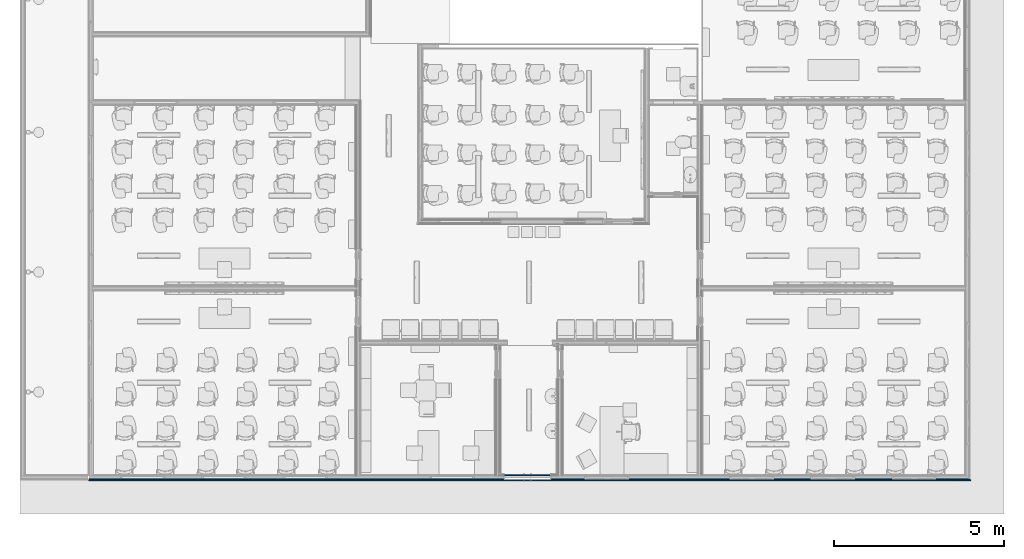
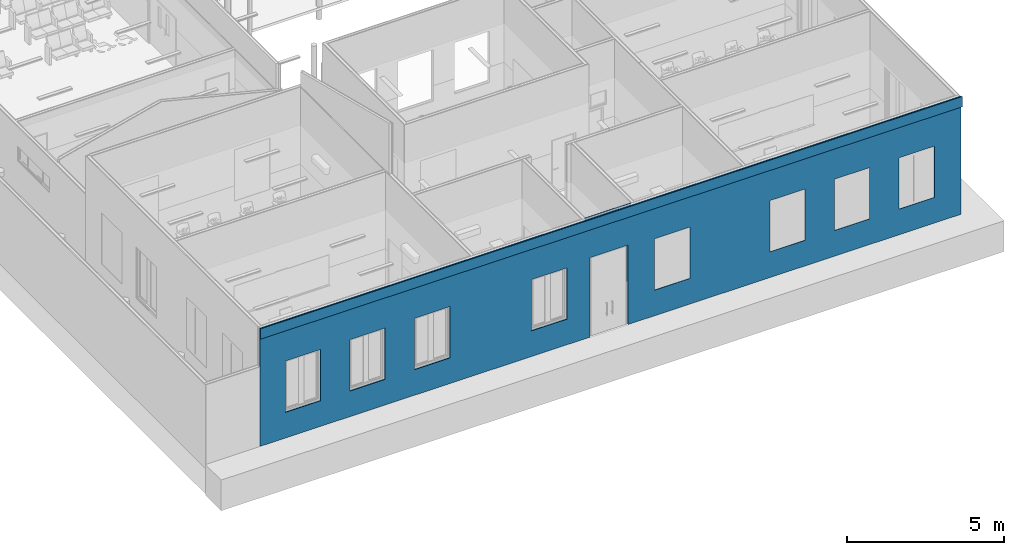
# One storey, part 7 of 155: 3 walls, 18 openings.
"""IFC2X3 building model written with IfcOpenShell, lengths in metres."""

from ifc_helpers import new_model, entity, si_unit, converted_unit, derived_unit, direction, frame, frame_2d, origin, place, context, subcontext, project, spatial, rectangle, extrude, material, layer, layer_set, layer_usage, type_object, element, save


model = new_model("IFC2X3")

# Units and contexts
model_context = context("Model", 3, precision=1e-05, world=origin(), true_north=direction((6.12303176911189e-17, 1.0)))
body_context = subcontext(model_context, "Body", "Model", "MODEL_VIEW")
ifc_project = project(units=[si_unit("LENGTHUNIT", "METRE"), si_unit("AREAUNIT", "SQUARE_METRE"), si_unit("VOLUMEUNIT", "CUBIC_METRE"), converted_unit("PLANEANGLEUNIT", "DEGREE", entity("IfcRatioMeasure", 0.0174532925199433), si_unit("PLANEANGLEUNIT", "RADIAN"), dimensions=[0, 0, 0, 0, 0, 0, 0]), si_unit("MASSUNIT", "GRAM", prefix="KILO"), derived_unit("MASSDENSITYUNIT", [(si_unit("MASSUNIT", "GRAM", prefix="KILO"), 1), (si_unit("LENGTHUNIT", "METRE"), -3)]), si_unit("TIMEUNIT", "SECOND"), si_unit("FREQUENCYUNIT", "HERTZ"), si_unit("THERMODYNAMICTEMPERATUREUNIT", "DEGREE_CELSIUS"), derived_unit("THERMALTRANSMITTANCEUNIT", [(si_unit("MASSUNIT", "GRAM", prefix="KILO"), 1), (si_unit("THERMODYNAMICTEMPERATUREUNIT", "KELVIN"), -1), (si_unit("TIMEUNIT", "SECOND"), -3)]), derived_unit("VOLUMETRICFLOWRATEUNIT", [(si_unit("LENGTHUNIT", "METRE"), 3), (si_unit("TIMEUNIT", "SECOND"), -1)]), si_unit("ELECTRICCURRENTUNIT", "AMPERE"), si_unit("ELECTRICVOLTAGEUNIT", "VOLT"), si_unit("POWERUNIT", "WATT"), si_unit("FORCEUNIT", "NEWTON", prefix="KILO"), si_unit("ILLUMINANCEUNIT", "LUX"), si_unit("LUMINOUSFLUXUNIT", "LUMEN"), si_unit("LUMINOUSINTENSITYUNIT", "CANDELA"), derived_unit("USERDEFINED", [(si_unit("MASSUNIT", "GRAM", prefix="KILO"), -1), (si_unit("LENGTHUNIT", "METRE"), -2), (si_unit("TIMEUNIT", "SECOND"), 3), (si_unit("LUMINOUSFLUXUNIT", "LUMEN"), 1)]), derived_unit("LINEARVELOCITYUNIT", [(si_unit("LENGTHUNIT", "METRE"), 1), (si_unit("TIMEUNIT", "SECOND"), -1)]), si_unit("PRESSUREUNIT", "PASCAL"), derived_unit("USERDEFINED", [(si_unit("LENGTHUNIT", "METRE"), -2), (si_unit("MASSUNIT", "GRAM", prefix="KILO"), 1), (si_unit("TIMEUNIT", "SECOND"), -2)])], contexts=[model_context])

# Site, building, storey
site_placement = place(None, frame((26.9889013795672, -17.5624287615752, 0.0)))
site = spatial("IfcSite", under=ifc_project, at=site_placement, Name="Default", CompositionType="ELEMENT")
building_placement = place(site_placement, origin())
building = spatial("IfcBuilding", under=site, at=building_placement, Name="C. C. L. Monsenhor Antônio Sampaio", CompositionType="ELEMENT")
storey_placement = place(building_placement, frame((0.0, 0.0, 1.19999999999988)))
storey = spatial("IfcBuildingStorey", under=building, at=storey_placement, Name="Nível 1.2", CompositionType="ELEMENT", Elevation=1.19999999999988)

# Wall, openings
ifc_material_1 = material(Name="Acabamento Branco")
ifc_layer_1 = layer(ifc_material_1, 0.0035)
ifc_material_2 = material(Name="Massa corrida")
ifc_layer_2 = layer(ifc_material_2, 0.02)
ifc_material_3 = material(Name="4")
ifc_layer_3 = layer(ifc_material_3, 0.0015)
ifc_material_4 = material(Name="3")
ifc_layer_4 = layer(ifc_material_4, 0.005)
ifc_layer_set_1 = layer_set([ifc_layer_1, ifc_layer_2, ifc_layer_3, ifc_layer_4], Name="Parede básica:EPintura Branca")
ifc_layer_usage_1 = layer_usage(ifc_layer_set_1, "AXIS2", "POSITIVE", -0.015)
wall_type_1 = type_object("IfcWallType", Name="Parede básica:EPintura Branca", PredefinedType="STANDARD", material=ifc_layer_set_1)
wall_1_placement = place(storey_placement, frame((-0.370552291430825, -39.3180663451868, 1.6), z_axis=(0.0, 0.0, 1.0), x_axis=(-1.0, 0.0, 0.0)))
wall_1 = element("IfcWallStandardCase", 1, at=wall_1_placement, inside=storey, type_object=wall_type_1, material=ifc_layer_usage_1, Name="Parede básica:EPintura Branca", ObjectType="Parede básica:EPintura Branca", context=body_context, shape_type="SweptSolid", body=[
    extrude(rectangle(XDim=1.70000000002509, YDim=0.0299999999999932, at=frame_2d((0.850000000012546, 0.0), x_axis=(-1.0, 0.0))), origin(), (0.0, 0.0, 1.0), 3.00000000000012),
])
opening_1_placement = place(wall_1_placement, origin())
element("IfcOpeningElement", 2, at=opening_1_placement, cuts=wall_1, Name="Parede básica:EPintura Branca", ObjectType="Opening", context=body_context, shape_type="SweptSolid", body=[
    extrude(rectangle(XDim=3.09999999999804, YDim=1.4, at=frame_2d((0.0, -3.33066907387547e-16), x_axis=(0.0, 1.0))), frame((0.880000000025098, -1.50900000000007, -0.0500000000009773), z_axis=(0.0, 1.0, 0.0), x_axis=(-1.0, 0.0, 0.0)), (0.0, 0.0, 1.0), 3.048),
])
opening_2_placement = place(wall_1_placement, origin())
element("IfcOpeningElement", 3, at=opening_2_placement, cuts=wall_1, Name="Parede básica:EPintura Branca", ObjectType="Opening", context=body_context, shape_type="SweptSolid", body=[
    extrude(rectangle(XDim=2.0, YDim=1.30000000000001, at=frame_2d((0.0, -3.88578058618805e-16), x_axis=(0.0, 1.0))), frame((12.1699999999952, -1.41900000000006, 0.400000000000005), z_axis=(0.0, 1.0, 0.0), x_axis=(-1.0, 0.0, 0.0)), (0.0, 0.0, 1.0), 3.04799999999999),
])
opening_3_placement = place(wall_1_placement, origin())
element("IfcOpeningElement", 4, at=opening_3_placement, cuts=wall_1, Name="Parede básica:EPintura Branca", ObjectType="Opening", context=body_context, shape_type="SweptSolid", body=[
    extrude(rectangle(XDim=2.0, YDim=1.30000000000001, at=frame_2d((-4.9960036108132e-16, -3.88578058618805e-16), x_axis=(0.0, 1.0))), frame((9.78999999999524, -1.41900000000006, 0.400000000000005), z_axis=(0.0, 1.0, 0.0), x_axis=(-1.0, 0.0, 0.0)), (0.0, 0.0, 1.0), 3.048),
])
opening_4_placement = place(wall_1_placement, origin())
element("IfcOpeningElement", 5, at=opening_4_placement, cuts=wall_1, Name="Parede básica:EPintura Branca", ObjectType="Opening", context=body_context, shape_type="SweptSolid", body=[
    extrude(rectangle(XDim=2.0, YDim=1.30000000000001, at=frame_2d((0.0, -3.88578058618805e-16), x_axis=(0.0, 1.0))), frame((7.39999999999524, -1.41900000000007, 0.400000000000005), z_axis=(0.0, 1.0, 0.0), x_axis=(-1.0, 0.0, 0.0)), (0.0, 0.0, 1.0), 3.048),
])
opening_5_placement = place(wall_1_placement, origin())
element("IfcOpeningElement", 6, at=opening_5_placement, cuts=wall_1, Name="Parede básica:EPintura Branca", ObjectType="Opening", context=body_context, shape_type="SweptSolid", body=[
    extrude(rectangle(XDim=2.0, YDim=1.30000000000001, at=frame_2d((1.66533453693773e-16, 0.0), x_axis=(1.0, 0.0))), frame((3.09000000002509, -1.41900000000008, 0.400000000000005), z_axis=(0.0, 1.0, 0.0), x_axis=(0.0, 0.0, 1.0)), (0.0, 0.0, 1.0), 3.048),
])
opening_6_placement = place(wall_1_placement, origin())
element("IfcOpeningElement", 7, at=opening_6_placement, cuts=wall_1, Name="Parede básica:EPintura Branca", ObjectType="Opening", context=body_context, shape_type="SweptSolid", body=[
    extrude(rectangle(XDim=2.0, YDim=1.30000000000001, at=frame_2d((1.66533453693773e-16, -1.11022302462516e-16), x_axis=(1.0, 0.0))), frame((-1.45, -1.50900000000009, 0.400000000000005), z_axis=(0.0, 1.0, 0.0), x_axis=(0.0, 0.0, 1.0)), (0.0, 0.0, 1.0), 3.048),
])
opening_7_placement = place(wall_1_placement, origin())
element("IfcOpeningElement", 8, at=opening_7_placement, cuts=wall_1, Name="Parede básica:EPintura Branca", ObjectType="Opening", context=body_context, shape_type="SweptSolid", body=[
    extrude(rectangle(XDim=2.0, YDim=1.30000000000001, at=frame_2d((1.66533453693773e-16, -2.22044604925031e-16), x_axis=(1.0, 0.0))), frame((-5.69999999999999, -1.50900000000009, 0.400000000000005), z_axis=(0.0, 1.0, 0.0), x_axis=(0.0, 0.0, 1.0)), (0.0, 0.0, 1.0), 3.048),
])
opening_8_placement = place(wall_1_placement, origin())
element("IfcOpeningElement", 9, at=opening_8_placement, cuts=wall_1, Name="Parede básica:EPintura Branca", ObjectType="Opening", context=body_context, shape_type="SweptSolid", body=[
    extrude(rectangle(XDim=2.0, YDim=1.30000000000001, at=frame_2d((1.66533453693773e-16, 0.0), x_axis=(1.0, 0.0))), frame((-8.07999999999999, -1.5090000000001, 0.400000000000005), z_axis=(0.0, 1.0, 0.0), x_axis=(0.0, 0.0, 1.0)), (0.0, 0.0, 1.0), 3.048),
])
opening_9_placement = place(wall_1_placement, origin())
element("IfcOpeningElement", 10, at=opening_9_placement, cuts=wall_1, Name="Parede básica:EPintura Branca", ObjectType="Opening", context=body_context, shape_type="SweptSolid", body=[
    extrude(rectangle(XDim=2.0, YDim=1.30000000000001, at=frame_2d((1.66533453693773e-16, 0.0), x_axis=(1.0, 0.0))), frame((-10.46, -1.5090000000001, 0.400000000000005), z_axis=(0.0, 1.0, 0.0), x_axis=(0.0, 0.0, 1.0)), (0.0, 0.0, 1.0), 3.048),
])

# Wall
ifc_layer_usage_2 = layer_usage(ifc_layer_set_1, "AXIS2", "POSITIVE", -0.015)
wall_2_placement = place(storey_placement, frame((-14.1205522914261, -39.4680663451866, 4.2)))
element("IfcWallStandardCase", 11, at=wall_2_placement, inside=storey, type_object=wall_type_1, material=ifc_layer_usage_2, Name="Parede básica:EPintura Branca", ObjectType="Parede básica:EPintura Branca", context=body_context, shape_type="SweptSolid", body=[
    extrude(rectangle(XDim=25.8799999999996, YDim=0.0299999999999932, at=frame_2d((12.9399999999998, 0.0), x_axis=(-1.0, 0.0))), origin(), (0.0, 0.0, 1.0), 0.400000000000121),
])

# Wall, openings
ifc_material_5 = material(Name="Acabamento amarelo")
ifc_layer_5 = layer(ifc_material_5, 0.0035)
ifc_layer_6 = layer(ifc_material_2, 0.02)
ifc_layer_7 = layer(ifc_material_3, 0.0015)
ifc_layer_8 = layer(ifc_material_4, 0.005)
ifc_layer_set_2 = layer_set([ifc_layer_5, ifc_layer_6, ifc_layer_7, ifc_layer_8], Name="Parede básica:EPintura amarela")
ifc_layer_usage_3 = layer_usage(ifc_layer_set_2, "AXIS2", "POSITIVE", -0.015)
wall_type_2 = type_object("IfcWallType", Name="Parede básica:EPintura amarela", PredefinedType="STANDARD", material=ifc_layer_set_2)
wall_3_placement = place(storey_placement, frame((-14.1255522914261, -39.4380663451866, 0.0)))
wall_3 = element("IfcWallStandardCase", 12, at=wall_3_placement, inside=storey, type_object=wall_type_2, material=ifc_layer_usage_3, Name="Parede básica:EPintura amarela", ObjectType="Parede básica:EPintura amarela", context=body_context, shape_type="SweptSolid", body=[
    extrude(rectangle(XDim=25.8549999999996, YDim=0.0299999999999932, at=frame_2d((12.9274999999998, 2.51534904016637e-17), x_axis=(-1.0, 0.0))), origin(), (0.0, 0.0, 1.0), 4.60000000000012),
])
opening_10_placement = place(wall_3_placement, origin())
element("IfcOpeningElement", 13, at=opening_10_placement, cuts=wall_3, Name="Parede básica:EPintura amarela", ObjectType="Opening", context=body_context, shape_type="SweptSolid", body=[
    extrude(rectangle(XDim=3.09999999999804, YDim=1.4, at=frame_2d((-3.33066907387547e-16, 0.0), x_axis=(1.0, 0.0))), frame((12.8749999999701, -1.41900000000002, 1.54999999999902), z_axis=(0.0, 1.0, 0.0), x_axis=(0.0, 0.0, 1.0)), (0.0, 0.0, 1.0), 3.04799999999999),
])
opening_11_placement = place(wall_3_placement, origin())
element("IfcOpeningElement", 14, at=opening_11_placement, cuts=wall_3, Name="Parede básica:EPintura amarela", ObjectType="Opening", context=body_context, shape_type="SweptSolid", body=[
    extrude(rectangle(XDim=2.0, YDim=1.30000000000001, at=frame_2d((1.66533453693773e-16, 0.0), x_axis=(1.0, 0.0))), frame((1.585, -1.50900000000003, 2.0), z_axis=(0.0, 1.0, 0.0), x_axis=(0.0, 0.0, 1.0)), (0.0, 0.0, 1.0), 3.048),
])
opening_12_placement = place(wall_3_placement, origin())
element("IfcOpeningElement", 15, at=opening_12_placement, cuts=wall_3, Name="Parede básica:EPintura amarela", ObjectType="Opening", context=body_context, shape_type="SweptSolid", body=[
    extrude(rectangle(XDim=2.0, YDim=1.30000000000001, at=frame_2d((1.66533453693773e-16, 0.0), x_axis=(1.0, 0.0))), frame((3.965, -1.50900000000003, 2.0), z_axis=(0.0, 1.0, 0.0), x_axis=(0.0, 0.0, 1.0)), (0.0, 0.0, 1.0), 3.048),
])
opening_13_placement = place(wall_3_placement, origin())
element("IfcOpeningElement", 16, at=opening_13_placement, cuts=wall_3, Name="Parede básica:EPintura amarela", ObjectType="Opening", context=body_context, shape_type="SweptSolid", body=[
    extrude(rectangle(XDim=2.0, YDim=1.30000000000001, at=frame_2d((1.66533453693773e-16, 0.0), x_axis=(1.0, 0.0))), frame((6.355, -1.50900000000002, 2.0), z_axis=(0.0, 1.0, 0.0), x_axis=(0.0, 0.0, 1.0)), (0.0, 0.0, 1.0), 3.048),
])
opening_14_placement = place(wall_3_placement, origin())
element("IfcOpeningElement", 17, at=opening_14_placement, cuts=wall_3, Name="Parede básica:EPintura amarela", ObjectType="Opening", context=body_context, shape_type="SweptSolid", body=[
    extrude(rectangle(XDim=2.0, YDim=1.30000000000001, at=frame_2d((0.0, -3.88578058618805e-16), x_axis=(0.0, 1.0))), frame((10.6649999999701, -1.509, 2.0), z_axis=(0.0, 1.0, 0.0), x_axis=(-1.0, 0.0, 0.0)), (0.0, 0.0, 1.0), 3.048),
])
opening_15_placement = place(wall_3_placement, origin())
element("IfcOpeningElement", 18, at=opening_15_placement, cuts=wall_3, Name="Parede básica:EPintura amarela", ObjectType="Opening", context=body_context, shape_type="SweptSolid", body=[
    extrude(rectangle(XDim=2.0, YDim=1.30000000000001, at=frame_2d((0.0, -3.88578058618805e-16), x_axis=(0.0, 1.0))), frame((15.2049999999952, -1.41900000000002, 2.0), z_axis=(0.0, 1.0, 0.0), x_axis=(-1.0, 0.0, 0.0)), (0.0, 0.0, 1.0), 3.04800000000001),
])
opening_16_placement = place(wall_3_placement, origin())
element("IfcOpeningElement", 19, at=opening_16_placement, cuts=wall_3, Name="Parede básica:EPintura amarela", ObjectType="Opening", context=body_context, shape_type="SweptSolid", body=[
    extrude(rectangle(XDim=2.0, YDim=1.30000000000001, at=frame_2d((5.55111512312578e-16, -3.88578058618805e-16), x_axis=(0.0, 1.0))), frame((19.4549999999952, -1.41900000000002, 2.0), z_axis=(0.0, 1.0, 0.0), x_axis=(-1.0, 0.0, 0.0)), (0.0, 0.0, 1.0), 3.048),
])
opening_17_placement = place(wall_3_placement, origin())
element("IfcOpeningElement", 20, at=opening_17_placement, cuts=wall_3, Name="Parede básica:EPintura amarela", ObjectType="Opening", context=body_context, shape_type="SweptSolid", body=[
    extrude(rectangle(XDim=2.0, YDim=1.30000000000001, at=frame_2d((0.0, -3.88578058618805e-16), x_axis=(0.0, 1.0))), frame((21.8349999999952, -1.41900000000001, 2.0), z_axis=(0.0, 1.0, 0.0), x_axis=(-1.0, 0.0, 0.0)), (0.0, 0.0, 1.0), 3.048),
])
opening_18_placement = place(wall_3_placement, origin())
element("IfcOpeningElement", 21, at=opening_18_placement, cuts=wall_3, Name="Parede básica:EPintura amarela", ObjectType="Opening", context=body_context, shape_type="SweptSolid", body=[
    extrude(rectangle(XDim=2.0, YDim=1.30000000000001, at=frame_2d((-4.9960036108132e-16, -3.88578058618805e-16), x_axis=(0.0, 1.0))), frame((24.2149999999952, -1.41900000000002, 2.0), z_axis=(0.0, 1.0, 0.0), x_axis=(-1.0, 0.0, 0.0)), (0.0, 0.0, 1.0), 3.048),
])

save(model, "model.ifc")
